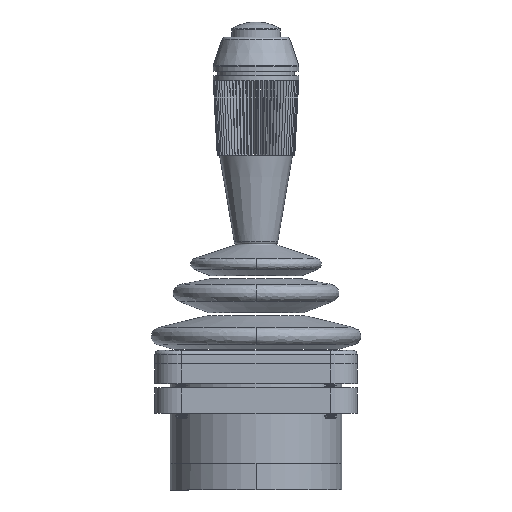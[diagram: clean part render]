
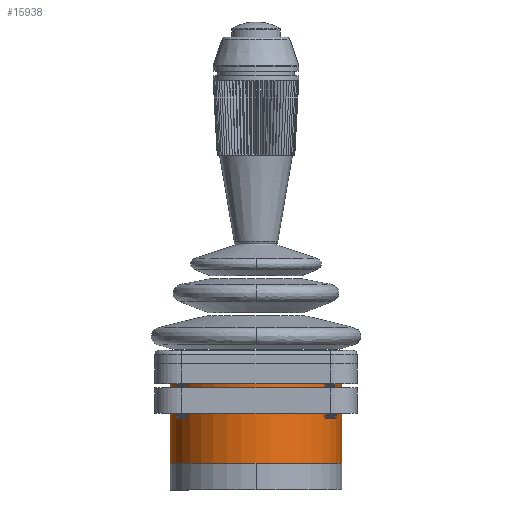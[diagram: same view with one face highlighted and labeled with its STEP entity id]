
A CAD part, left-side view. The second image highlights one B-rep face of the part: STEP entity #15938.
In plain terms, the highlighted cylindrical face has radius 20.447 mm (diameter 40.894 mm), a partial arc.
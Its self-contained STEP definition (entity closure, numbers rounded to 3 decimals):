
#15938 = ADVANCED_FACE('',(#15939),#15954,.T.);
#15939 = FACE_BOUND('',#15940,.T.);
#15940 = EDGE_LOOP('',(#15941,#15977,#16005,#16038));
#15941 = ORIENTED_EDGE('',*,*,#15942,.F.);
#15942 = EDGE_CURVE('',#15943,#15945,#15947,.T.);
#15943 = VERTEX_POINT('',#15944);
#15944 = CARTESIAN_POINT('',(0.,-20.447,-6.298)
  );
#15945 = VERTEX_POINT('',#15946);
#15946 = CARTESIAN_POINT('',(0.,20.447,-6.298)
  );
#15947 = SURFACE_CURVE('',#15948,(#15953,#15965),.PCURVE_S1.);
#15948 = CIRCLE('',#15949,20.447);
#15949 = AXIS2_PLACEMENT_3D('',#15950,#15951,#15952);
#15950 = CARTESIAN_POINT('',(0.,0.,
    -6.298));
#15951 = DIRECTION('',(0.,0.,-1.));
#15952 = DIRECTION('',(0.,-1.,0.));
#15953 = PCURVE('',#15954,#15959);
#15954 = CYLINDRICAL_SURFACE('',#15955,20.447);
#15955 = AXIS2_PLACEMENT_3D('',#15956,#15957,#15958);
#15956 = CARTESIAN_POINT('',(0.,0.,
    -6.298));
#15957 = DIRECTION('',(0.,0.,1.));
#15958 = DIRECTION('',(0.,1.,0.));
#15959 = DEFINITIONAL_REPRESENTATION('',(#15960),#15964);
#15960 = LINE('',#15961,#15962);
#15961 = CARTESIAN_POINT('',(3.142,0.));
#15962 = VECTOR('',#15963,1.);
#15963 = DIRECTION('',(-1.,0.));
#15964 = ( GEOMETRIC_REPRESENTATION_CONTEXT(2) 
PARAMETRIC_REPRESENTATION_CONTEXT() REPRESENTATION_CONTEXT('2D SPACE',''
  ) );
#15965 = PCURVE('',#15966,#15971);
#15966 = PLANE('',#15967);
#15967 = AXIS2_PLACEMENT_3D('',#15968,#15969,#15970);
#15968 = CARTESIAN_POINT('',(0.,0.,
    -6.298));
#15969 = DIRECTION('',(0.,0.,-1.));
#15970 = DIRECTION('',(0.,-1.,0.));
#15971 = DEFINITIONAL_REPRESENTATION('',(#15972),#15976);
#15972 = CIRCLE('',#15973,20.447);
#15973 = AXIS2_PLACEMENT_2D('',#15974,#15975);
#15974 = CARTESIAN_POINT('',(0.,0.));
#15975 = DIRECTION('',(1.,0.));
#15976 = ( GEOMETRIC_REPRESENTATION_CONTEXT(2) 
PARAMETRIC_REPRESENTATION_CONTEXT() REPRESENTATION_CONTEXT('2D SPACE',''
  ) );
#15977 = ORIENTED_EDGE('',*,*,#15978,.T.);
#15978 = EDGE_CURVE('',#15943,#15979,#15981,.T.);
#15979 = VERTEX_POINT('',#15980);
#15980 = CARTESIAN_POINT('',(0.,-20.447,12.752)
  );
#15981 = SURFACE_CURVE('',#15982,(#15986,#15993),.PCURVE_S1.);
#15982 = LINE('',#15983,#15984);
#15983 = CARTESIAN_POINT('',(0.,-20.447,-6.298)
  );
#15984 = VECTOR('',#15985,1.);
#15985 = DIRECTION('',(0.,0.,1.));
#15986 = PCURVE('',#15954,#15987);
#15987 = DEFINITIONAL_REPRESENTATION('',(#15988),#15992);
#15988 = LINE('',#15989,#15990);
#15989 = CARTESIAN_POINT('',(3.142,0.));
#15990 = VECTOR('',#15991,1.);
#15991 = DIRECTION('',(0.,1.));
#15992 = ( GEOMETRIC_REPRESENTATION_CONTEXT(2) 
PARAMETRIC_REPRESENTATION_CONTEXT() REPRESENTATION_CONTEXT('2D SPACE',''
  ) );
#15993 = PCURVE('',#15994,#15999);
#15994 = CYLINDRICAL_SURFACE('',#15995,20.447);
#15995 = AXIS2_PLACEMENT_3D('',#15996,#15997,#15998);
#15996 = CARTESIAN_POINT('',(0.,0.,
    -6.298));
#15997 = DIRECTION('',(0.,0.,1.));
#15998 = DIRECTION('',(0.,1.,0.));
#15999 = DEFINITIONAL_REPRESENTATION('',(#16000),#16004);
#16000 = LINE('',#16001,#16002);
#16001 = CARTESIAN_POINT('',(3.142,0.));
#16002 = VECTOR('',#16003,1.);
#16003 = DIRECTION('',(0.,1.));
#16004 = ( GEOMETRIC_REPRESENTATION_CONTEXT(2) 
PARAMETRIC_REPRESENTATION_CONTEXT() REPRESENTATION_CONTEXT('2D SPACE',''
  ) );
#16005 = ORIENTED_EDGE('',*,*,#16006,.T.);
#16006 = EDGE_CURVE('',#15979,#16007,#16009,.T.);
#16007 = VERTEX_POINT('',#16008);
#16008 = CARTESIAN_POINT('',(0.,20.447,12.752)
  );
#16009 = SURFACE_CURVE('',#16010,(#16015,#16022),.PCURVE_S1.);
#16010 = CIRCLE('',#16011,20.447);
#16011 = AXIS2_PLACEMENT_3D('',#16012,#16013,#16014);
#16012 = CARTESIAN_POINT('',(0.,0.,
    12.752));
#16013 = DIRECTION('',(0.,0.,-1.));
#16014 = DIRECTION('',(0.,1.,0.));
#16015 = PCURVE('',#15954,#16016);
#16016 = DEFINITIONAL_REPRESENTATION('',(#16017),#16021);
#16017 = LINE('',#16018,#16019);
#16018 = CARTESIAN_POINT('',(6.283,19.05));
#16019 = VECTOR('',#16020,1.);
#16020 = DIRECTION('',(-1.,0.));
#16021 = ( GEOMETRIC_REPRESENTATION_CONTEXT(2) 
PARAMETRIC_REPRESENTATION_CONTEXT() REPRESENTATION_CONTEXT('2D SPACE',''
  ) );
#16022 = PCURVE('',#16023,#16028);
#16023 = PLANE('',#16024);
#16024 = AXIS2_PLACEMENT_3D('',#16025,#16026,#16027);
#16025 = CARTESIAN_POINT('',(-24.13,24.13,12.752));
#16026 = DIRECTION('',(0.,0.,1.));
#16027 = DIRECTION('',(0.,1.,0.));
#16028 = DEFINITIONAL_REPRESENTATION('',(#16029),#16037);
#16029 = ( BOUNDED_CURVE() B_SPLINE_CURVE(2,(#16030,#16031,#16032,#16033
    ,#16034,#16035,#16036),.UNSPECIFIED.,.T.,.F.) 
B_SPLINE_CURVE_WITH_KNOTS((1,2,2,2,2,1),(-2.094,0.,
    2.094,4.189,6.283,8.378),
.UNSPECIFIED.) CURVE() GEOMETRIC_REPRESENTATION_ITEM() 
RATIONAL_B_SPLINE_CURVE((1.,0.5,1.,0.5,1.,0.5,1.)) REPRESENTATION_ITEM(
  '') );
#16030 = CARTESIAN_POINT('',(-3.683,-24.13));
#16031 = CARTESIAN_POINT('',(-3.683,-59.545));
#16032 = CARTESIAN_POINT('',(-34.354,-41.838));
#16033 = CARTESIAN_POINT('',(-65.024,-24.13));
#16034 = CARTESIAN_POINT('',(-34.354,-6.422));
#16035 = CARTESIAN_POINT('',(-3.683,11.285));
#16036 = CARTESIAN_POINT('',(-3.683,-24.13));
#16037 = ( GEOMETRIC_REPRESENTATION_CONTEXT(2) 
PARAMETRIC_REPRESENTATION_CONTEXT() REPRESENTATION_CONTEXT('2D SPACE',''
  ) );
#16038 = ORIENTED_EDGE('',*,*,#16039,.F.);
#16039 = EDGE_CURVE('',#15945,#16007,#16040,.T.);
#16040 = SURFACE_CURVE('',#16041,(#16045,#16052),.PCURVE_S1.);
#16041 = LINE('',#16042,#16043);
#16042 = CARTESIAN_POINT('',(0.,20.447,-6.298)
  );
#16043 = VECTOR('',#16044,1.);
#16044 = DIRECTION('',(0.,0.,1.));
#16045 = PCURVE('',#15954,#16046);
#16046 = DEFINITIONAL_REPRESENTATION('',(#16047),#16051);
#16047 = LINE('',#16048,#16049);
#16048 = CARTESIAN_POINT('',(0.,0.));
#16049 = VECTOR('',#16050,1.);
#16050 = DIRECTION('',(0.,1.));
#16051 = ( GEOMETRIC_REPRESENTATION_CONTEXT(2) 
PARAMETRIC_REPRESENTATION_CONTEXT() REPRESENTATION_CONTEXT('2D SPACE',''
  ) );
#16052 = PCURVE('',#15994,#16053);
#16053 = DEFINITIONAL_REPRESENTATION('',(#16054),#16058);
#16054 = LINE('',#16055,#16056);
#16055 = CARTESIAN_POINT('',(6.283,0.));
#16056 = VECTOR('',#16057,1.);
#16057 = DIRECTION('',(0.,1.));
#16058 = ( GEOMETRIC_REPRESENTATION_CONTEXT(2) 
PARAMETRIC_REPRESENTATION_CONTEXT() REPRESENTATION_CONTEXT('2D SPACE',''
  ) );
